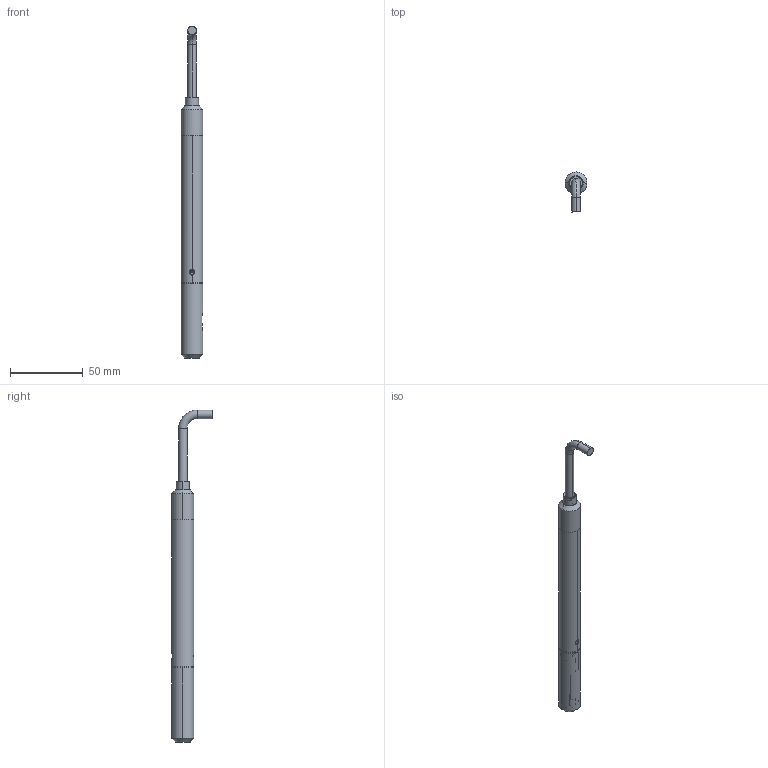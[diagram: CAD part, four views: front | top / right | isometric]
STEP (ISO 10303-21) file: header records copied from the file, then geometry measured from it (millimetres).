
FILE_DESCRIPTION (( 'STEP AP203' ), '1' );
FILE_NAME ('俶 609.15.000_捘.STEP', '2020-03-24T07:08:20', ( 'user' ), ( 'Ref' ), 'SwSTEP 2.0', 'SolidWorks 2015', '' );
FILE_SCHEMA (( 'CONFIG_CONTROL_DESIGN' ));
Length unit declared in the file: millimetre
Products named in the file (8): 俶 609.15.000_捘; Âèíò_Ì1.6õ4; ﾐﾔ 609.15.00ﾊ鮻; 俶 609.05.00騶扻錝僝資; 俶 609.15.00騶盷謥羻僾鴀; RF603.00.81_忺摎錪; ÐÔ 609.15.00õ_îñíîâàíèå äàò÷èêà; 俶 609.15.00騶扻豵鵨
Assembly tree (9 placements, depth 2):
  俶 609.15.000_捘
    俶 609.15.00騶扻豵鵨
    ﾐﾔ 609.15.00ﾊ鮻
    ÐÔ 609.15.00õ_îñíîâàíèå äàò÷èêà
    RF603.00.81_忺摎錪
    俶 609.15.00騶盷謥羻僾鴀
    俶 609.05.00騶扻錝僝資
    Âèíò_Ì1.6õ4  x3
Bounding box: 15 x 27.52 x 227.61 mm (x, y, z)
Volume: 19854.2 mm3; surface area: 21112.5 mm2
Topology: 9 solids, 9 shells, 350 faces, 902 edges, 564 vertices
Faces by surface type: cylinder 145, plane 114, cone 70, torus 20, bspline 1
Entity records: 11784 total; most frequent: CARTESIAN_POINT 3039, DIRECTION 1664, ORIENTED_EDGE 1660, EDGE_CURVE 830, AXIS2_PLACEMENT_3D 645, VERTEX_POINT 522, LINE 374, VECTOR 374
